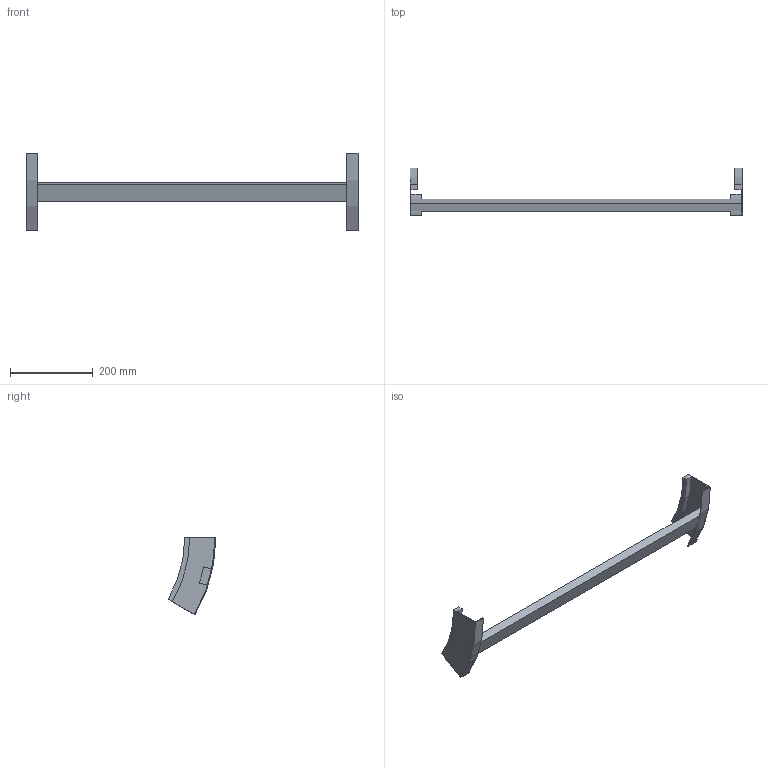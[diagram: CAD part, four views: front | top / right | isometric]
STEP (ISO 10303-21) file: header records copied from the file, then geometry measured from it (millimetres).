
FILE_DESCRIPTION (( 'STEP AP214' ), '1' );
FILE_NAME ('B2X32B3C800XX.step', '2025-03-20T10:03:04', ( '' ), ( '' ), 'SwSTEP 2.0', 'SolidWorks 2023', '' );
FILE_SCHEMA (( 'AUTOMOTIVE_DESIGN' ));
Length unit declared in the file: millimetre
Products named in the file (3): TRAVERSINO_800; B2X32B3C800XX; B2_LONGH.SALITA_30°_H75_R300
Assembly tree (3 placements, depth 2):
  B2X32B3C800XX
    B2_LONGH.SALITA_30°_H75_R300  x2
    TRAVERSINO_800
Bounding box: 800 x 115.19 x 187.5 mm (x, y, z)
Volume: 778881.9 mm3; surface area: 183768.8 mm2
Topology: 3 solids, 3 shells, 26 faces, 60 edges, 40 vertices
Faces by surface type: plane 18, cylinder 8
Entity records: 544 total; most frequent: DIRECTION 88, CARTESIAN_POINT 82, ORIENTED_EDGE 72, EDGE_CURVE 36, AXIS2_PLACEMENT_3D 30, VECTOR 28, LINE 28, VERTEX_POINT 24
